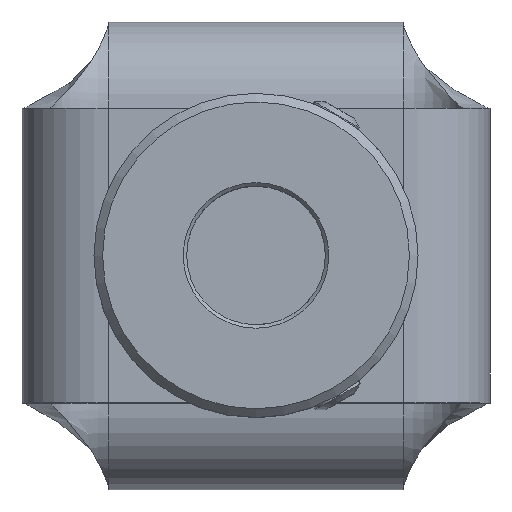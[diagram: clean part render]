
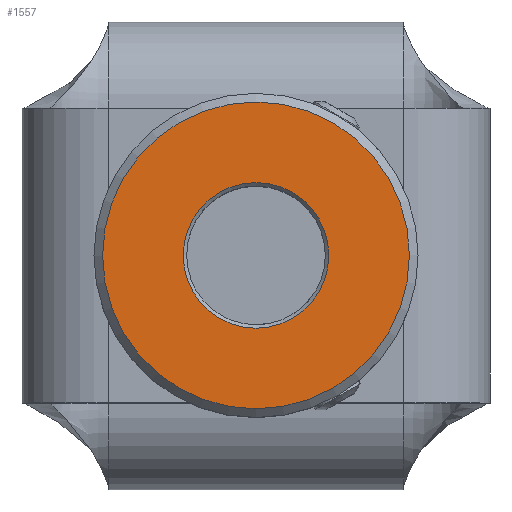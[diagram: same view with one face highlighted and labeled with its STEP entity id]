
A CAD part, top view. The second image highlights one B-rep face of the part: STEP entity #1557.
In plain terms, the highlighted planar face has unit normal (0, 0, 1).
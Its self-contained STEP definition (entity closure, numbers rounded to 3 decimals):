
#43=FACE_BOUND('',#375,.T.);
#262=FACE_OUTER_BOUND('',#374,.T.);
#374=EDGE_LOOP('',(#1318));
#375=EDGE_LOOP('',(#1319));
#511=CIRCLE('',#1699,4.2);
#513=CIRCLE('',#1703,8.85);
#781=VERTEX_POINT('',#2952);
#785=VERTEX_POINT('',#3028);
#969=EDGE_CURVE('',#781,#781,#511,.T.);
#973=EDGE_CURVE('',#785,#785,#513,.T.);
#1318=ORIENTED_EDGE('',*,*,#973,.F.);
#1319=ORIENTED_EDGE('',*,*,#969,.F.);
#1478=PLANE('',#1702);
#1557=ADVANCED_FACE('',(#262,#43),#1478,.F.);
#1699=AXIS2_PLACEMENT_3D('',#2953,#2035,#2036);
#1702=AXIS2_PLACEMENT_3D('',#3027,#2041,#2042);
#1703=AXIS2_PLACEMENT_3D('',#3029,#2043,#2044);
#2035=DIRECTION('center_axis',(0.,0.,1.));
#2036=DIRECTION('ref_axis',(-1.,0.,0.));
#2041=DIRECTION('center_axis',(0.,0.,-1.));
#2042=DIRECTION('ref_axis',(-1.,0.,0.));
#2043=DIRECTION('center_axis',(0.,0.,-1.));
#2044=DIRECTION('ref_axis',(-1.,0.,0.));
#2952=CARTESIAN_POINT('',(4.2,0.,9.));
#2953=CARTESIAN_POINT('Origin',(0.,0.,9.));
#3027=CARTESIAN_POINT('Origin',(0.,0.,9.));
#3028=CARTESIAN_POINT('',(8.85,0.,9.));
#3029=CARTESIAN_POINT('Origin',(0.,0.,9.));
